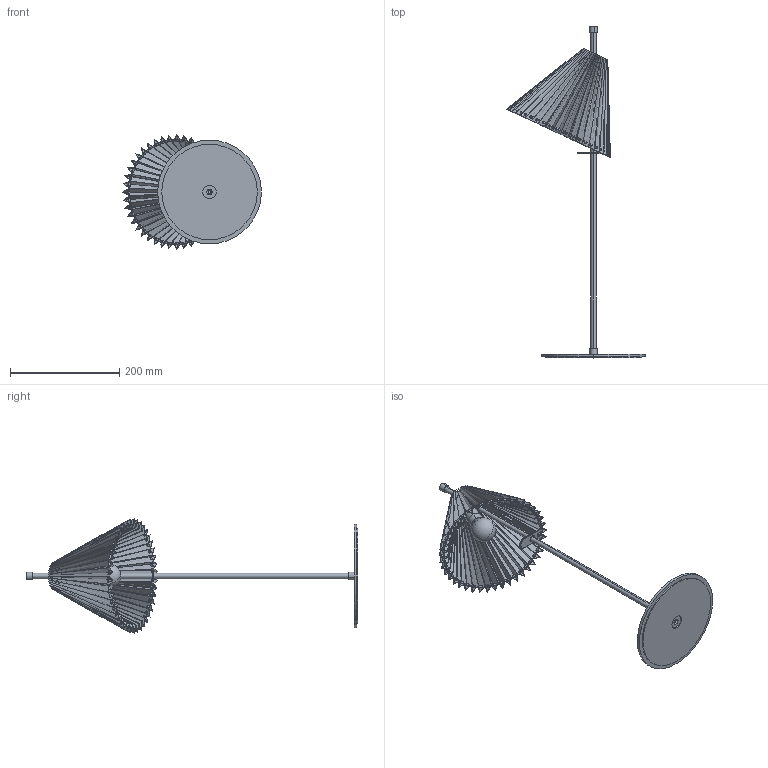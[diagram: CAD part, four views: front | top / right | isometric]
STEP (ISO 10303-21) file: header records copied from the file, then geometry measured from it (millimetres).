
FILE_DESCRIPTION (( 'STEP AP203' ), '1' );
FILE_NAME ('Coquette Taula Web.STEP', '2025-10-15T12:49:22', ( '' ), ( '' ), 'SwSTEP 2.0', 'SolidWorks 2013', '' );
FILE_SCHEMA (( 'CONFIG_CONTROL_DESIGN' ));
Length unit declared in the file: millimetre
Products named in the file (12): Bombeta LED Ø45; ME020_Tija Ø10x600mm; ME024.1_Chapa 2mm GUIA (FORATS PETITS); AI016_Base cautxu Ø175; ME022_Tap Ø14x10 M10; Tapa 3D iman 25x23x4mm; GI460_Disc base Ø190x5_; Coquette Taula Web; Portalampades 26,5x56mm; Pantalla; ME023_Tap Passant Ø14x10mm M10; Chapa base + Aro Ø190
Assembly tree (11 placements, depth 2):
  Coquette Taula Web
    ME020_Tija Ø10x600mm
    Chapa base + Aro Ø190
    ME024.1_Chapa 2mm GUIA (FORATS PETITS)
    Pantalla
    ME022_Tap Ø14x10 M10
    ME023_Tap Passant Ø14x10mm M10
    GI460_Disc base Ø190x5_
    AI016_Base cautxu Ø175
    Tapa 3D iman 25x23x4mm
    Portalampades 26,5x56mm
    Bombeta LED Ø45
Bounding box: 254.2 x 608 x 209.86 mm (x, y, z)
Volume: 413656.9 mm3; surface area: 530827.7 mm2
Topology: 13 solids, 13 shells, 496 faces, 1360 edges, 889 vertices
Faces by surface type: torus 182, bspline 172, cylinder 70, plane 60, cone 6, sphere 6
Entity records: 28191 total; most frequent: CARTESIAN_POINT 14871, ORIENTED_EDGE 2698, DIRECTION 2023, EDGE_CURVE 1349, VERTEX_POINT 886, EDGE_LOOP 699, AXIS2_PLACEMENT_3D 680, VECTOR 663
